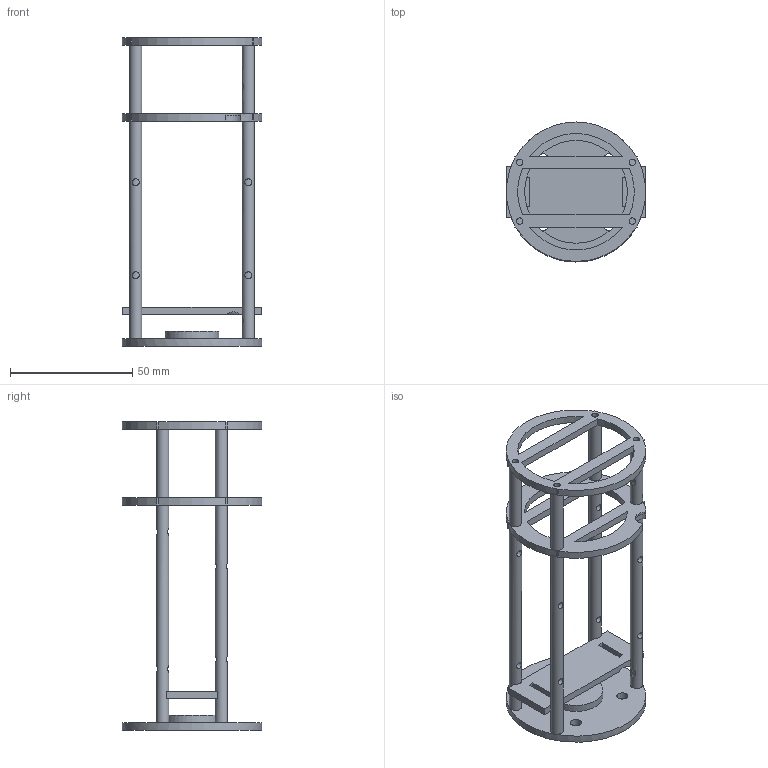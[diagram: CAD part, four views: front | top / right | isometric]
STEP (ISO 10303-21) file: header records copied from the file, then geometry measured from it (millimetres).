
FILE_DESCRIPTION(('FreeCAD Model'),'2;1');
FILE_NAME('Open CASCADE Shape Model','2026-09-19T18:57:27',('FreeCAD'),( 'FreeCAD'),'Open CASCADE STEP processor 7.8','FreeCAD','Unknown');
FILE_SCHEMA(('AUTOMOTIVE_DESIGN { 1 0 10303 214 1 1 1 1 }'));
Length unit declared in the file: millimetre
Products named in the file (1): Open CASCADE STEP translator 7.8 13
Bounding box: 57 x 57 x 126 mm (x, y, z)
Volume: 27311.5 mm3; surface area: 24948.8 mm2
Topology: 1 solids, 5 shells, 132 faces, 386 edges, 278 vertices
Faces by surface type: plane 67, cylinder 53, torus 12
Full cylindrical faces by diameter (mm): 2.6 x8, 2.8 x8, 3.4 x4, 4.5 x4, 5 x8, 17.2 x1, 22 x1, 57 x1
Entity records: 6669 total; most frequent: CARTESIAN_POINT 2868, DIRECTION 797, ORIENTED_EDGE 772, EDGE_CURVE 386, AXIS2_PLACEMENT_3D 309, VERTEX_POINT 278, FACE_BOUND 204, EDGE_LOOP 204
